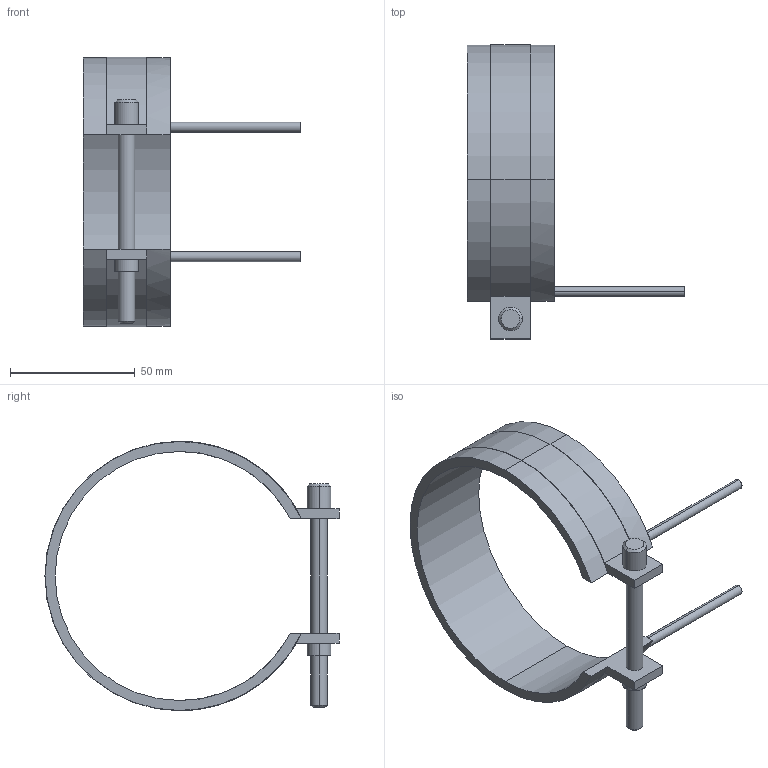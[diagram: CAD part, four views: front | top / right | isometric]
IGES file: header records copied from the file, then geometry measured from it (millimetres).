
Start section: START RECORD GO HERE.
Global section: file name: 14100035.igs; native system: DASSAULT SYSTEMES CATIA V5 R20 - www.3ds.com; preprocessor: CATIA Version 5 Release 20 ; author: Utente; organization: NB04-ASUS; date: 20210403.105505; units: millimetre
Bounding box: 87.5 x 118.1 x 108.2 mm (x, y, z)
Surface area: 26490 mm2 (no closed solid volume)
Topology: 0 solids, 0 shells, 45 faces, 232 edges, 232 vertices
Faces by surface type: revolution 28, plane 17
